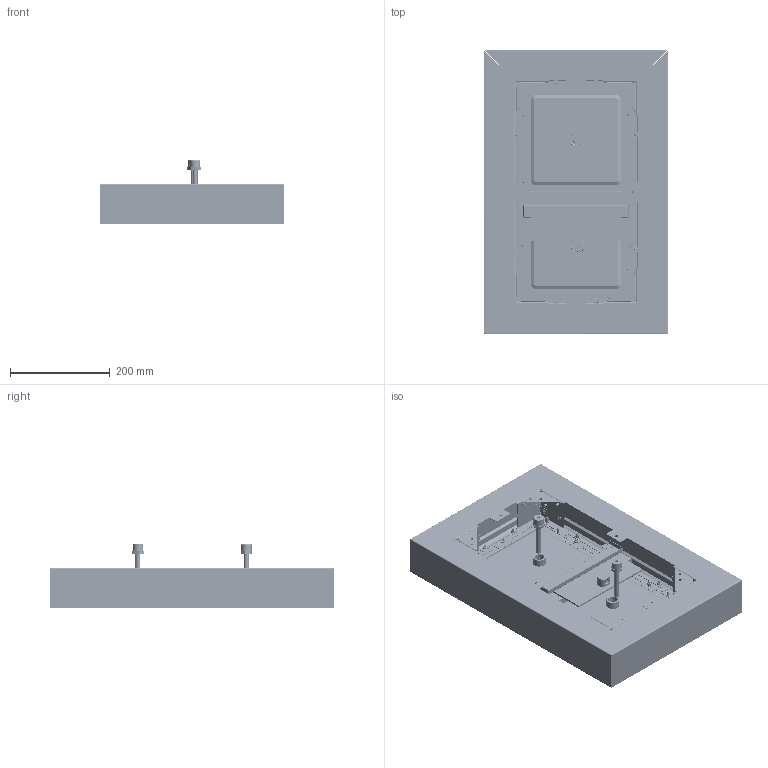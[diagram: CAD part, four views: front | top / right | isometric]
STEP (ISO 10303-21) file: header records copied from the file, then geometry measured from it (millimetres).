
FILE_DESCRIPTION (( 'STEP AP203' ), '1' );
FILE_NAME ('PIA25G.STEP', '2019-06-17T15:06:26', ( '' ), ( '' ), 'SwSTEP 2.0', 'SolidWorks 2014', '' );
FILE_SCHEMA (( 'CONFIG_CONTROL_DESIGN' ));
Length unit declared in the file: millimetre
Products named in the file (47): 21723_8; 23156; S-00340_5; S-00207_6; T-RA003_8; Seg. LED_8; 23155; 22933_1; S-00317_9; 23159; ATT MEZZO POLL; T-RA031; T-RA063_8; Seg. Guaina_8; S-00185; PIA25G; 22931_1; P-00100_8; S-00104_8; 22736_2; TUBONEB_GEDA UNICO; C_13442_2; 23160; 21656_8; 22213_3; 22509_5; 23157; S-00110_8; 23158; STRIPS1000RGB L=225_2; 22932_1; GrR_8; S-00104_7; STRIPS1000RGB_8; 22729_2; 22728_2; STRIPS1000RGB L=425_3; 23152; 22930_1; 23161
Assembly tree (255 placements, depth 5):
  PIA25G
    S-00185  x6
      S-00185
    23159
    S-00104_7  x6
      S-00104_8
    23158
    23160
      T-RA031
        T-RA031
      23156
      23155
      23161
    S-00207_6  x16
    S-00110_8  x16
    S-00340_5  x20
      S-00340_5
    21723_8  x6
    22728_2  x2
      P-00100_8
        P-00100_8
      T-RA003_8
        T-RA003_8
      C_13442_2
      22729_2
    22509_5  x4
    S-00317_9  x4
      S-00317_9
    23157  x2
    22933_1
      S-00317_9  x4
        S-00317_9
      22932_1  x2
      S-00104_7  x4
        S-00104_8
      22931_1  x2
      GrR_8  x4
        S-00317_9
          S-00317_9
        21656_8
    STRIPS1000RGB L=225_2  x2
      22736_2
      STRIPS1000RGB_8
        Seg. Guaina_8
        Seg. LED_8
    STRIPS1000RGB L=425_3  x2
      STRIPS1000RGB_8
        Seg. Guaina_8
        Seg. LED_8
      22213_3
    T-RA063_8  x4
      T-RA063_8
    22930_1  x2
    23152
    ATT MEZZO POLL  x2
    TUBONEB_GEDA UNICO  x2
Bounding box: 370 x 570 x 127.19 mm (x, y, z)
Volume: 1134676.6 mm3; surface area: 2000863.5 mm2
Topology: 395 solids, 395 shells, 13303 faces, 29936 edges, 18057 vertices
Faces by surface type: bspline 4967, cylinder 4706, plane 2970, cone 612, torus 48
Entity records: 77387 total; most frequent: CARTESIAN_POINT 14506, DIRECTION 11704, ORIENTED_EDGE 10366, EDGE_CURVE 5183, AXIS2_PLACEMENT_3D 4548, VERTEX_POINT 3356, EDGE_LOOP 2693, VECTOR 2608
